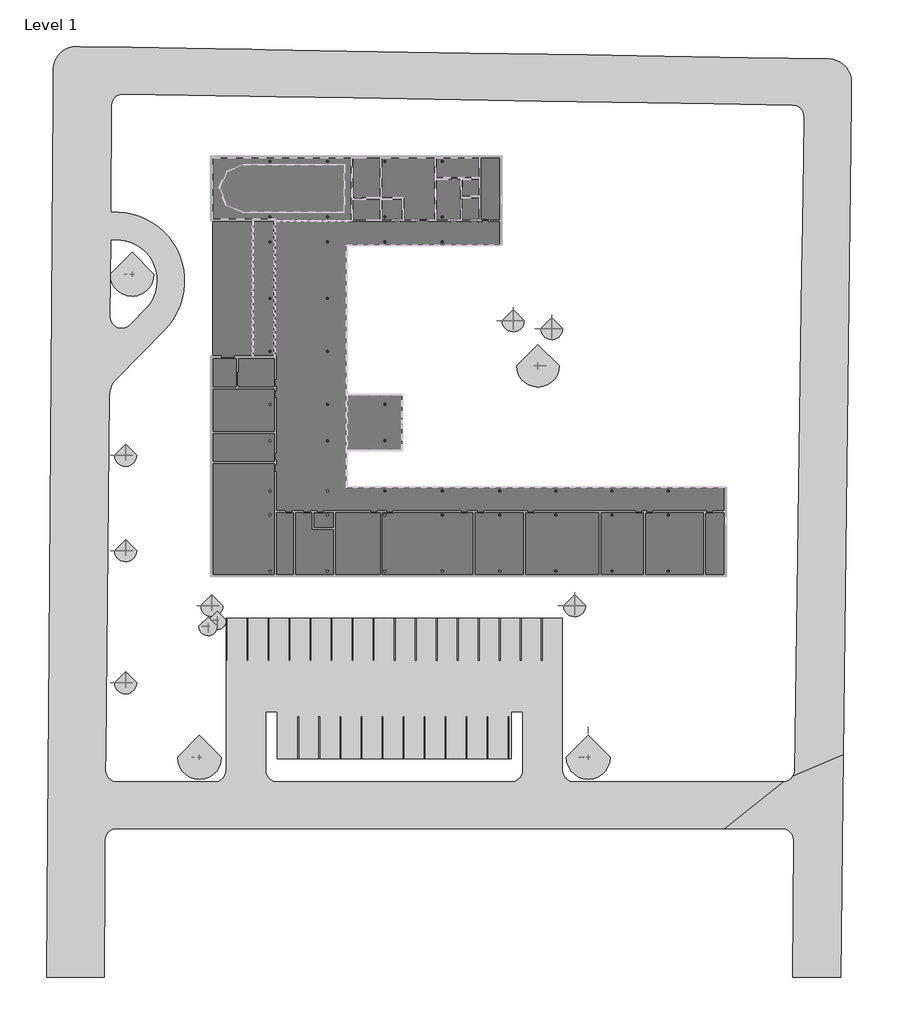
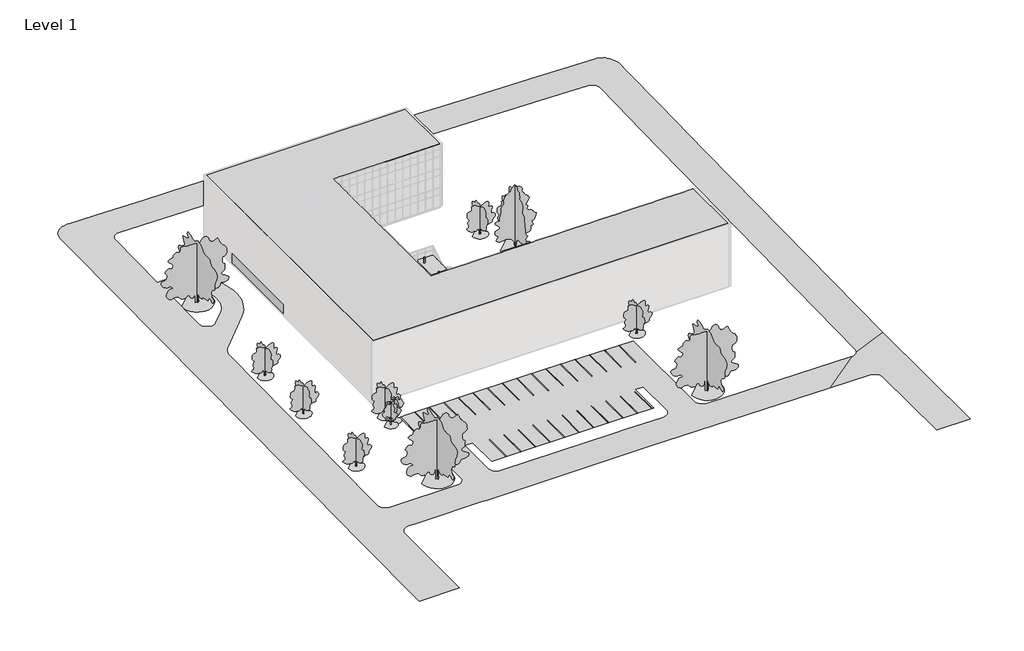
# One storey, part 18 of 18: 34 columns, 30 proxies, 13 geographic elements.
"""IFC4 building model written with IfcOpenShell, lengths in millimetres."""

from ifc_helpers import new_model, si_unit, point, frame_2d, origin, origin_with_axes, place, context, project, spatial, polyline, circle_curve, trimmed, segment, composite_curve, outline, extrude, triangles, transform, mapped, element, save
from components import m_parking_space_5480_x_2740mm_90_deg_a793e569, m_concrete_round_column_300mm_df790aaa, m_rpc_tree_deciduous_american_beech_6_0_meters_be49fed4, m_rpc_tree_deciduous_japanese_cherry_4_5_meters_7aaeb41d, m_rpc_tree_deciduous_lombardy_poplar_12_2_meters_1b309f58, m_rpc_tree_deciduous_scarlet_oak_12_5_meters_13b38d7d

model = new_model("IFC4")

# Units and contexts
model_context = context("Model", 3, world=origin())
ifc_project = project(units=[si_unit("LENGTHUNIT", "METRE", prefix="MILLI")], contexts=[model_context])

# Site, building, storey
site = spatial("IfcSite", under=ifc_project)
building = spatial("IfcBuilding", under=site)
storey = spatial("IfcBuildingStorey", under=building, Name="Level 1", Elevation=0.0)

# Proxies
placement = place(None, origin())
element("IfcBuildingElementProxy", 1, Name="Building Element Proxy", at=placement, inside=storey, context=model_context, shape_type="Tessellation", body=[
    triangles([(70309.7548828, 43704.7137085, -503.1527547), (59746.7205688, 43879.5355957, -409.5406998), (45204.5570435, 44120.2092773, -278.9620967), (38757.531958, 44226.9097412, -221.9724431), (23364.4389771, 44481.6709351, -156.1477909), (7458.42556, 44744.915332, 0.0), (-3099.0088051, 44919.6442017, 0.0), (-4909.0805878, 44949.6005127, 0.0), (-9691.7927261, 45028.7538208, 0.0), (-13464.786264, 45091.2011719, 0.0), (-20574.5627563, 45208.8684082, 0.0), (-27271.6376953, 45319.7081543, 0.0), (-27739.5370422, 45327.4518677, 0.0), (-28264.1631592, 45290.0215942, 0.0), (-28774.1901672, 45161.5457153, 0.0), (-29253.9399536, 44945.9681763, 0.0), (-29688.6669067, 44649.9211304, 0.0), (-30065.011377, 44282.4970459, 0.0), (-30371.4019775, 43854.9975586, 0.0), (-30598.4230042, 43380.5567505, 0.0), (-30739.095813, 42873.755127, 0.0), (-30774.2820374, 42505.3404053, 0.0), (-30789.0997375, 42350.1824341, 0.0), (-30818.2607483, 38430.6216797, 0.0), (-31349.0702087, -32913.8142334, 0.0), (-31410.3827454, -41154.7298218, 0.0), (-31466.9560364, -48758.3494263, 0.0), (-31526.3942688, -56747.4710815, 0.0), (-31669.8878357, -76033.9217651, 0.0), (-24160.2671448, -76033.9217651, 0.0), (-24090.7853394, -62944.5904907, 0.0), (-24065.2287598, -58130.4099243, 0.0), (-24026.1078918, -57797.9371948, 0.0), (-23964.4744446, -57624.1291992, 0.0), (-23914.2263489, -57482.4262207, 0.0), (-23735.1558838, -57199.58302, 0.0), (-23497.8145569, -56963.4997559, 0.0), (-23214.0249023, -56785.9338501, 0.0), (-22897.9232666, -56675.7266235, 0.0), (-22565.2505493, -56638.3707642, 0.0), (-21189.1601257, -56638.3707642, 0.0), (-18714.6158203, -56638.3707642, 0.0), (-9198.8908356, -56638.3707642, 0.0), (-8594.8358459, -56638.3707642, 0.0), (-7828.2291504, -56638.3707642, 0.0), (21010.0826843, -56638.3707642, 0.0), (22698.8121643, -56638.3707642, 0.0), (56711.1151611, -56638.3707642, -334.7282604), (64236.9255615, -56638.3707642, -334.7282604), (64572.5050781, -56676.3916992, -334.0721231), (64891.0763306, -56788.5243896, -332.1369578), (65176.4821655, -56969.0808105, -329.020869), (65414.2630005, -57208.917334, -324.8818048), (65592.3591064, -57495.8672607, -319.9295998), (65701.7431274, -57815.3872925, -314.4152925), (65736.8712158, -58151.2830688, -308.6184443), (65582.9224731, -76033.9217651, 0.0), (71858.6882446, -76033.9217651, 0.0), (72207.6111328, -46972.9328247, -501.5343578), (72914.4470581, 11897.6051788, -595.5837407), (72981.5592407, 17486.9884277, -555.8220689), (73096.2220093, 27037.1194519, -545.4053719), (73231.3532959, 38291.881311, -535.7858282), (73259.8957397, 40669.1083008, -533.0508934), (73220.8237061, 41189.0672607, -532.0520082), (73092.3059692, 41694.4085083, -530.2807137), (72878.2306641, 42169.863208, -527.790495), (72585.0625122, 42601.0694458, -524.6566383), (72221.661438, 42975.0001099, -520.9737236), (71799.0035156, 43280.3582153, -516.8530812), (71329.8554077, 43507.9210693, -512.4191949), (70828.3883423, 43650.810022, -507.805959), (65844.943689, -49064.5493408, -435.8225258), (65789.1005859, -49448.423584, -434.7050795), (65636.6912842, -49805.1366943, -432.6774053), (65397.8965576, -50110.8436157, -429.875069), (65088.6968262, -50345.0897827, -426.4855594), (64729.7652466, -50492.2110352, -422.7355339), (64345.1050049, -50542.3707642, -418.8757768), (37077.7972778, -50542.3707642, -150.5276125), (36744.0176514, -50504.7637573, -147.2983764), (36426.9718872, -50393.8263428, -144.3423523), (36142.5636658, -50215.1163208, -141.8077414), (35905.0502563, -49977.6052368, -139.8216707), (35726.3448853, -49693.1946899, -138.4837074), (35615.4051453, -49376.1535767, -137.8609529), (35577.7981384, -49042.3692993, -137.9846372), (35577.7981384, -29206.3707642, -167.3300298), (18575.1115448, -29206.3707642, 0.0), (14497.9359924, -29206.3707642, 0.0), (-7039.9656372, -29206.3707642, 0.0), (-8262.2014984, -29206.3707642, 0.0), (-8262.2014984, -49042.3692993, 0.0), (-8299.809668, -49376.1535767, 0.0), (-8410.7482452, -49693.1946899, 0.0), (-8589.4541977, -49977.6052368, 0.0), (-8665.8786026, -50054.028479, 0.0), (-8826.9670258, -50215.1163208, 0.0), (-9111.3758286, -50393.8263428, 0.0), (-9428.4198486, -50504.7637573, 0.0), (-9455.9652603, -50507.8658936, 0.0), (-9762.2018005, -50542.3707642, 0.0), (-21961.0269653, -50542.3707642, 0.0), (-22489.1714722, -50542.3707642, 0.0), (-22825.1137573, -50504.2661133, 0.0), (-23143.9896423, -50391.896228, 0.0), (-23429.5977905, -50210.9584351, 0.0), (-23667.4274597, -49970.6568237, 0.0), (-23845.3979919, -49683.1953003, 0.0), (-23954.4657532, -49363.1729736, 0.0), (-23989.0915466, -49026.8539673, 0.0), (-23965.8278503, -46777.8191528, 0.0), (-23482.8736084, -89.4265001, 0.0), (-23435.7322998, 363.1888415, 0.0), (-23321.7694885, 803.7518847, 0.0), (-23143.5268799, 1222.4547432, 0.0), (-22904.9670227, 1609.9761475, 0.0), (-22611.4058716, 1957.6892258, 0.0), (-16262.7991974, 8428.9988754, 0.0), (-15636.7711304, 9137.9788559, 0.0), (-15088.4732025, 9908.6498383, 0.0), (-14623.9422546, 10732.5286194, 0.0), (-14248.2919281, 11600.5442413, 0.0), (-13965.658017, 12503.1414734, 0.0), (-13779.1507965, 13430.3848755, 0.0), (-13690.8247925, 14372.0646057, 0.0), (-13701.6508759, 15317.8173431, 0.0), (-13811.5116119, 16257.2297699, 0.0), (-14019.1954468, 17179.959494, 0.0), (-14322.4187988, 18075.8513214, 0.0), (-14717.8411743, 18935.0395752, 0.0), (-15201.1093506, 19748.0690186, 0.0), (-15766.9062103, 20505.9855469, 0.0), (-16409.0007385, 21200.4478088, 0.0), (-17120.3235992, 21823.812085, 0.0), (-17893.0473633, 22369.2160034, 0.0), (-18718.662085, 22830.6506287, 0.0), (-19588.0811096, 23203.0418518, 0.0), (-20491.7329285, 23482.2875977, 0.0), (-21419.6693115, 23665.3136353, 0.0), (-22361.6746033, 23750.1084595, 0.0), (-23307.3796692, 23735.7325928, 0.0), (-23203.9185425, 37641.6768127, 0.0), (-23163.3768311, 37977.0679688, 0.0), (-23048.8094055, 38294.8811279, 0.0), (-22866.0228882, 38578.9940186, 0.0), (-22624.2911316, 38814.9958923, 0.0), (-22335.8738525, 38990.915387, 0.0), (-22015.4050415, 39097.8274658, 0.0), (-21679.1371948, 39130.3092041, 0.0), (-13208.9460663, 38990.1293884, 0.0), (-9625.997905, 38930.8306824, 0.0), (-5084.1908295, 38855.6655029, 0.0), (-1645.9585442, 38798.7619995, 0.0), (8377.2142456, 38632.8791016, 0.0), (32875.1398499, 38227.4364075, -240.4937689), (46729.6360474, 37998.1434265, -299.7389899), (55435.3325684, 37854.0638489, -376.6945579), (65630.1847046, 37685.3392639, -468.2372987), (65962.9318359, 37642.302356, -471.261242), (66277.7870361, 37526.3815247, -474.1950019), (66559.0024292, 37343.376416, -476.8917123), (66792.4998047, 37102.4422852, -479.216534), (66966.6054565, 36815.6318848, -481.0531225), (67072.6082886, 36497.2978271, -482.3095865), (67105.1969971, 36163.3670471, -482.9230665), (67025.2297852, 30755.4808594, -487.4104743), (66899.3025879, 22239.1774292, -496.4906977), (66805.7827148, 15914.661145, -541.4088498), (-1581.9995121, -47494.3707642, 0.0), (18839.3663452, -47494.3707642, 0.0), (21324.2449036, -47494.3707642, 0.0), (28897.5965881, -47494.3707642, -74.5322966), (28897.5965881, -41398.3707642, -83.5507232), (30421.5965881, -41398.3707642, -98.5489992), (30421.5965881, -49042.3692993, -87.2404598), (30383.9895813, -49376.1535767, -86.3765409), (30273.0498413, -49693.1946899, -84.8157168), (30094.3444702, -49977.6052368, -82.6362441), (29856.8310608, -50215.1163208, -79.9474184), (29572.4228394, -50393.8263428, -76.8840607), (29255.3770752, -50504.7637573, -73.5997817), (28921.5974487, -50542.3707642, -70.2592743), (21782.4332153, -50542.3707642, 0.0), (19562.9384583, -50542.3707642, 0.0), (-1605.9993553, -50542.3707642, 0.0), (-1939.7807259, -50504.7637573, 0.0), (-2256.8250366, -50393.8263428, 0.0), (-2541.2341301, -50215.1163208, 0.0), (-2778.7466675, -49977.6052368, 0.0), (-2957.4526199, -49693.1946899, 0.0), (-3068.3911972, -49376.1535767, 0.0), (-3105.9993668, -49042.3692993, 0.0), (-3105.9993668, -41398.3707642, 0.0), (-1581.9995121, -41398.3707642, 0.0), (-23329.5411072, 20062.4428528, 0.0), (-22621.2355042, 20122.8182373, 0.0), (-21911.2137268, 20088.0784973, 0.0), (-21212.1866272, 19958.8398743, 0.0), (-20536.6766968, 19737.4208313, 0.0), (-19896.7808716, 19427.7839172, 0.0), (-19303.9589172, 19035.4776306, 0.0), (-18768.829953, 18567.527124, 0.0), (-18300.9771149, 18032.3132813, 0.0), (-17908.7801239, 17439.420401, 0.0), (-17599.2606445, 16799.4687653, 0.0), (-17377.9648499, 16123.9181396, 0.0), (-17248.854126, 15424.8677856, 0.0), (-17214.2422852, 14714.8378693, 0.0), (-17274.7478943, 14006.5438934, 0.0), (-17429.2872986, 13312.6722931, 0.0), (-17675.0943878, 12645.649054, 0.0), (-18007.7659424, 12017.4211212, 0.0), (-18421.3430237, 11439.2389709, 0.0), (-20791.7983337, 9022.9684341, 0.0), (-21073.2044128, 8797.119429, 0.0), (-21399.8193604, 8643.7590225, 0.0), (-21753.3349915, 8571.483783, 0.0), (-22113.9339111, 8584.3452072, 0.0), (-22461.4010742, 8681.6229904, 0.0), (-22776.2609253, 8857.8639771, 0.0), (-23040.8610535, 9103.1879562, 0.0), (-23240.3698059, 9403.8428604, 0.0), (-23363.6018188, 9742.9750671, 0.0), (-23403.6505371, 10101.5741089, 0.0)], [[29, 30, 31], [29, 31, 28], [28, 32, 33], [32, 28, 31], [33, 34, 28], [28, 34, 35], [36, 37, 108], [36, 108, 28], [108, 37, 107], [38, 106, 107], [106, 38, 39], [37, 38, 107], [36, 28, 35], [28, 108, 27], [110, 111, 27], [109, 110, 27], [26, 27, 112], [25, 112, 113], [112, 25, 26], [27, 111, 112], [109, 27, 108], [114, 115, 224], [113, 114, 225], [225, 114, 224], [223, 116, 117], [223, 224, 115], [116, 223, 115], [25, 113, 24], [24, 113, 225], [105, 39, 40], [104, 40, 103], [105, 40, 104], [117, 118, 222], [118, 219, 220], [221, 118, 220], [223, 117, 222], [103, 41, 42], [41, 103, 40], [219, 118, 218], [216, 118, 119], [217, 218, 118], [118, 216, 217], [216, 119, 215], [212, 213, 122], [214, 121, 213], [119, 214, 215], [221, 222, 118], [121, 122, 213], [122, 123, 212], [211, 123, 124], [211, 212, 123], [211, 124, 210], [210, 124, 125], [121, 214, 120], [120, 214, 119], [105, 106, 39], [142, 143, 24], [196, 142, 24], [24, 144, 145], [144, 24, 143], [24, 145, 23], [146, 23, 145], [142, 196, 197], [196, 24, 225], [140, 198, 139], [197, 198, 141], [141, 198, 140], [12, 146, 147], [141, 142, 197], [12, 147, 148], [22, 20, 21], [16, 17, 22], [20, 22, 19], [18, 19, 22], [17, 18, 22], [22, 23, 13], [23, 12, 13], [23, 146, 12], [149, 11, 148], [16, 22, 15], [22, 14, 15], [13, 14, 22], [149, 150, 11], [12, 148, 11], [139, 198, 199], [207, 208, 128], [133, 203, 204], [205, 206, 131], [132, 204, 205], [207, 129, 206], [209, 126, 127], [126, 209, 210], [127, 128, 208], [206, 130, 131], [130, 206, 129], [129, 207, 128], [127, 208, 209], [210, 125, 126], [131, 132, 205], [137, 201, 136], [200, 201, 137], [11, 150, 151], [139, 199, 138], [200, 137, 138], [201, 202, 136], [199, 200, 138], [203, 134, 202], [134, 135, 202], [136, 202, 135], [10, 151, 9], [10, 11, 151], [203, 133, 134], [204, 132, 133], [103, 42, 102], [100, 43, 44], [99, 100, 44], [102, 43, 101], [188, 45, 187], [100, 101, 43], [44, 45, 99], [45, 186, 187], [43, 102, 42], [185, 186, 46], [46, 186, 45], [184, 46, 47], [185, 46, 184], [182, 183, 47], [47, 183, 184], [182, 82, 181], [99, 45, 98], [98, 45, 97], [95, 96, 190], [93, 94, 192], [95, 191, 94], [97, 190, 96], [45, 189, 190], [45, 188, 189], [191, 192, 94], [191, 95, 190], [193, 93, 192], [180, 181, 83], [190, 97, 45], [81, 182, 47], [79, 50, 78], [49, 50, 79], [80, 47, 48], [48, 79, 80], [79, 48, 49], [81, 47, 80], [78, 50, 51], [57, 58, 56], [55, 59, 54], [77, 51, 52], [59, 75, 53], [76, 52, 53], [54, 59, 53], [182, 81, 82], [55, 56, 59], [180, 84, 179], [180, 83, 84], [179, 84, 85], [177, 178, 86], [85, 86, 178], [178, 179, 85], [87, 177, 86], [77, 78, 51], [75, 76, 53], [59, 73, 74], [74, 75, 59], [77, 52, 76], [82, 83, 181], [56, 58, 59], [170, 171, 195], [91, 92, 194], [194, 195, 91], [93, 194, 92], [195, 90, 91], [90, 195, 171], [194, 93, 193], [175, 176, 87], [172, 174, 89], [172, 173, 174], [175, 88, 174], [88, 175, 87], [172, 89, 171], [177, 87, 176], [89, 174, 88], [8, 152, 153], [7, 153, 154], [8, 9, 152], [6, 7, 154], [8, 153, 7], [154, 155, 6], [9, 151, 152], [89, 90, 171], [155, 5, 6], [155, 156, 5], [5, 156, 4], [4, 157, 3], [4, 156, 157], [168, 169, 61], [160, 161, 1], [162, 163, 64], [161, 162, 1], [163, 164, 63], [62, 168, 61], [61, 169, 60], [165, 166, 63], [167, 63, 166], [168, 62, 167], [164, 165, 63], [63, 167, 62], [3, 158, 2], [2, 158, 159], [2, 159, 1], [66, 71, 72], [72, 1, 65], [159, 160, 1], [158, 3, 157], [66, 72, 65], [64, 65, 1], [66, 67, 71], [69, 70, 68], [67, 68, 70], [71, 67, 70], [162, 64, 1], [163, 63, 64], [60, 169, 73], [59, 60, 73]], closed=False),
])
m_parking_space_5480_x_2740mm_90_deg_shape = m_parking_space_5480_x_2740mm_90_deg_a793e569(model_context)
element("IfcBuildingElementProxy", 2, Name="M_Parking Space : 5480 x 2740mm - 90 deg", ObjectType="M_Parking Space : 5480 x 2740mm - 90 deg", at=placement, inside=storey, context=model_context, shape_type="MappedRepresentation", body=[
    mapped(m_parking_space_5480_x_2740mm_90_deg_shape, transform((-8211.3704002, -29206.3707642, 0.7803686), x_axis=(1.0, 0.0, 0.0), y_axis=(0.0, 1.0, 0.0), z_axis=(0.0, 0.0, 1.0))),
])
element("IfcBuildingElementProxy", 3, Name="M_Parking Space : 5480 x 2740mm - 90 deg", ObjectType="M_Parking Space : 5480 x 2740mm - 90 deg", at=placement, inside=storey, context=model_context, shape_type="MappedRepresentation", body=[
    mapped(m_parking_space_5480_x_2740mm_90_deg_shape, transform((-5471.4012928, -29206.3707642, 0.7803686), x_axis=(1.0, 0.0, 0.0), y_axis=(0.0, 1.0, 0.0), z_axis=(0.0, 0.0, 1.0))),
])
element("IfcBuildingElementProxy", 4, Name="M_Parking Space : 5480 x 2740mm - 90 deg", ObjectType="M_Parking Space : 5480 x 2740mm - 90 deg", at=placement, inside=storey, context=model_context, shape_type="MappedRepresentation", body=[
    mapped(m_parking_space_5480_x_2740mm_90_deg_shape, transform((-2731.4321855, -29206.3707642, 0.7803686), x_axis=(1.0, 0.0, 0.0), y_axis=(0.0, 1.0, 0.0), z_axis=(0.0, 0.0, 1.0))),
])
element("IfcBuildingElementProxy", 5, Name="M_Parking Space : 5480 x 2740mm - 90 deg", ObjectType="M_Parking Space : 5480 x 2740mm - 90 deg", at=placement, inside=storey, context=model_context, shape_type="MappedRepresentation", body=[
    mapped(m_parking_space_5480_x_2740mm_90_deg_shape, transform((8.5369219, -29206.3707642, 0.7803686), x_axis=(1.0, 0.0, 0.0), y_axis=(0.0, 1.0, 0.0), z_axis=(0.0, 0.0, 1.0))),
])
element("IfcBuildingElementProxy", 6, Name="M_Parking Space : 5480 x 2740mm - 90 deg", ObjectType="M_Parking Space : 5480 x 2740mm - 90 deg", at=placement, inside=storey, context=model_context, shape_type="MappedRepresentation", body=[
    mapped(m_parking_space_5480_x_2740mm_90_deg_shape, transform((2748.5060292, -29206.3707642, 0.7803686), x_axis=(1.0, 0.0, 0.0), y_axis=(0.0, 1.0, 0.0), z_axis=(0.0, 0.0, 1.0))),
])
element("IfcBuildingElementProxy", 7, Name="M_Parking Space : 5480 x 2740mm - 90 deg", ObjectType="M_Parking Space : 5480 x 2740mm - 90 deg", at=placement, inside=storey, context=model_context, shape_type="MappedRepresentation", body=[
    mapped(m_parking_space_5480_x_2740mm_90_deg_shape, transform((5488.4751366, -29206.3707642, 0.7803686), x_axis=(1.0, 0.0, 0.0), y_axis=(0.0, 1.0, 0.0), z_axis=(0.0, 0.0, 1.0))),
])
element("IfcBuildingElementProxy", 8, Name="M_Parking Space : 5480 x 2740mm - 90 deg", ObjectType="M_Parking Space : 5480 x 2740mm - 90 deg", at=placement, inside=storey, context=model_context, shape_type="MappedRepresentation", body=[
    mapped(m_parking_space_5480_x_2740mm_90_deg_shape, transform((8228.4442439, -29206.3707642, 0.7803686), x_axis=(1.0, 0.0, 0.0), y_axis=(0.0, 1.0, 0.0), z_axis=(0.0, 0.0, 1.0))),
])
element("IfcBuildingElementProxy", 9, Name="M_Parking Space : 5480 x 2740mm - 90 deg", ObjectType="M_Parking Space : 5480 x 2740mm - 90 deg", at=placement, inside=storey, context=model_context, shape_type="MappedRepresentation", body=[
    mapped(m_parking_space_5480_x_2740mm_90_deg_shape, transform((10968.4133512, -29206.3707642, 0.7803686), x_axis=(1.0, 0.0, 0.0), y_axis=(0.0, 1.0, 0.0), z_axis=(0.0, 0.0, 1.0))),
])
element("IfcBuildingElementProxy", 10, Name="M_Parking Space : 5480 x 2740mm - 90 deg", ObjectType="M_Parking Space : 5480 x 2740mm - 90 deg", at=placement, inside=storey, context=model_context, shape_type="MappedRepresentation", body=[
    mapped(m_parking_space_5480_x_2740mm_90_deg_shape, transform((13708.3824586, -29206.3707642, 0.7803686), x_axis=(1.0, 0.0, 0.0), y_axis=(0.0, 1.0, 0.0), z_axis=(0.0, 0.0, 1.0))),
])
element("IfcBuildingElementProxy", 11, Name="M_Parking Space : 5480 x 2740mm - 90 deg", ObjectType="M_Parking Space : 5480 x 2740mm - 90 deg", at=placement, inside=storey, context=model_context, shape_type="MappedRepresentation", body=[
    mapped(m_parking_space_5480_x_2740mm_90_deg_shape, transform((16448.3515659, -29206.3707642, 0.7254434), x_axis=(1.0, 0.0, 0.0), y_axis=(0.0, 1.0, 0.0), z_axis=(0.0, 0.0, 1.0))),
])
element("IfcBuildingElementProxy", 12, Name="M_Parking Space : 5480 x 2740mm - 90 deg", ObjectType="M_Parking Space : 5480 x 2740mm - 90 deg", at=placement, inside=storey, context=model_context, shape_type="MappedRepresentation", body=[
    mapped(m_parking_space_5480_x_2740mm_90_deg_shape, transform((19188.3206733, -29206.3707642, -5.2310848), x_axis=(0.9999560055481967, 0.0, -0.009380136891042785), y_axis=(-1.1675017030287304e-05, 0.9999992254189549, -0.0012445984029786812), z_axis=(0.009380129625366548, 0.0012446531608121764, 0.9999552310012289))),
])
element("IfcBuildingElementProxy", 13, Name="M_Parking Space : 5480 x 2740mm - 90 deg", ObjectType="M_Parking Space : 5480 x 2740mm - 90 deg", at=placement, inside=storey, context=model_context, shape_type="MappedRepresentation", body=[
    mapped(m_parking_space_5480_x_2740mm_90_deg_shape, transform((21928.2897806, -29206.3707642, -32.2196013), x_axis=(0.9999515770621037, 0.0, -0.0098409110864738), y_axis=(-1.4557933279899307e-05, 0.9999989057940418, -0.0014792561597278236), z_axis=(0.009840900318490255, 0.0014793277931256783, 0.99995048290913))),
])
element("IfcBuildingElementProxy", 14, Name="M_Parking Space : 5480 x 2740mm - 90 deg", ObjectType="M_Parking Space : 5480 x 2740mm - 90 deg", at=placement, inside=storey, context=model_context, shape_type="MappedRepresentation", body=[
    mapped(m_parking_space_5480_x_2740mm_90_deg_shape, transform((24668.258888, -29206.3707642, -59.1846994), x_axis=(0.9999515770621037, 0.0, -0.009840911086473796), y_axis=(-1.4557933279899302e-05, 0.9999989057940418, -0.0014792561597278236), z_axis=(0.009840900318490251, 0.0014793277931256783, 0.99995048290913))),
])
element("IfcBuildingElementProxy", 15, Name="M_Parking Space : 5480 x 2740mm - 90 deg", ObjectType="M_Parking Space : 5480 x 2740mm - 90 deg", at=placement, inside=storey, context=model_context, shape_type="MappedRepresentation", body=[
    mapped(m_parking_space_5480_x_2740mm_90_deg_shape, transform((27408.2279953, -29206.3707642, -86.1497975), x_axis=(0.9999515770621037, 0.0, -0.0098409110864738), y_axis=(-1.4557933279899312e-05, 0.9999989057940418, -0.001479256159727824), z_axis=(0.009840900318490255, 0.0014793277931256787, 0.99995048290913))),
])
element("IfcBuildingElementProxy", 16, Name="M_Parking Space : 5480 x 2740mm - 90 deg", ObjectType="M_Parking Space : 5480 x 2740mm - 90 deg", at=placement, inside=storey, context=model_context, shape_type="MappedRepresentation", body=[
    mapped(m_parking_space_5480_x_2740mm_90_deg_shape, transform((30148.1971027, -29206.3707642, -113.1148956), x_axis=(0.9999515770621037, 0.0, -0.009840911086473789), y_axis=(-1.4557933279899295e-05, 0.9999989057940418, -0.001479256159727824), z_axis=(0.009840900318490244, 0.0014793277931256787, 0.99995048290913))),
])
element("IfcBuildingElementProxy", 17, Name="M_Parking Space : 5480 x 2740mm - 90 deg", ObjectType="M_Parking Space : 5480 x 2740mm - 90 deg", at=placement, inside=storey, context=model_context, shape_type="MappedRepresentation", body=[
    mapped(m_parking_space_5480_x_2740mm_90_deg_shape, transform((32888.16621, -29206.3707642, -140.0799937), x_axis=(0.9999515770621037, 0.0, -0.009840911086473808), y_axis=(-1.4557933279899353e-05, 0.9999989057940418, -0.0014792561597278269), z_axis=(0.009840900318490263, 0.0014793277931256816, 0.99995048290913))),
])
element("IfcBuildingElementProxy", 18, Name="M_Parking Space : 5480 x 2740mm - 90 deg", ObjectType="M_Parking Space : 5480 x 2740mm - 90 deg", at=placement, inside=storey, context=model_context, shape_type="MappedRepresentation", body=[
    mapped(m_parking_space_5480_x_2740mm_90_deg_shape, transform((28558.0005584, -47494.3704098, -70.4098691), x_axis=(-0.9999515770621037, 0.0, 0.009840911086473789), y_axis=(1.4557933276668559e-05, -0.9999989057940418, 0.0014792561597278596), z_axis=(0.00984090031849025, 0.0014793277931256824, 0.99995048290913))),
])
element("IfcBuildingElementProxy", 19, Name="M_Parking Space : 5480 x 2740mm - 90 deg", ObjectType="M_Parking Space : 5480 x 2740mm - 90 deg", at=placement, inside=storey, context=model_context, shape_type="MappedRepresentation", body=[
    mapped(m_parking_space_5480_x_2740mm_90_deg_shape, transform((25818.031746, -47494.3704098, -43.444774), x_axis=(-0.9999515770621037, 0.0, 0.009840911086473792), y_axis=(1.455793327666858e-05, -0.9999989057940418, 0.0014792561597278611), z_axis=(0.009840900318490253, 0.001479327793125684, 0.99995048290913))),
])
element("IfcBuildingElementProxy", 20, Name="M_Parking Space : 5480 x 2740mm - 90 deg", ObjectType="M_Parking Space : 5480 x 2740mm - 90 deg", at=placement, inside=storey, context=model_context, shape_type="MappedRepresentation", body=[
    mapped(m_parking_space_5480_x_2740mm_90_deg_shape, transform((23078.0629336, -47494.3704098, -16.4796788), x_axis=(-0.9999515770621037, 0.0, 0.009840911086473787), y_axis=(1.4557933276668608e-05, -0.9999989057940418, 0.0014792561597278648), z_axis=(0.009840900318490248, 0.0014793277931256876, 0.99995048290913))),
])
element("IfcBuildingElementProxy", 21, Name="M_Parking Space : 5480 x 2740mm - 90 deg", ObjectType="M_Parking Space : 5480 x 2740mm - 90 deg", at=placement, inside=storey, context=model_context, shape_type="MappedRepresentation", body=[
    mapped(m_parking_space_5480_x_2740mm_90_deg_shape, transform((20338.0941212, -47494.3704098, 0.5399922), x_axis=(-0.9999888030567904, 0.0, 0.004732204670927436), y_axis=(3.5003760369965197e-06, -0.9999997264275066, 0.0007396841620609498), z_axis=(0.004732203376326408, 0.0007396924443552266, 0.9999885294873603))),
])
element("IfcBuildingElementProxy", 22, Name="M_Parking Space : 5480 x 2740mm - 90 deg", ObjectType="M_Parking Space : 5480 x 2740mm - 90 deg", at=placement, inside=storey, context=model_context, shape_type="MappedRepresentation", body=[
    mapped(m_parking_space_5480_x_2740mm_90_deg_shape, transform((17598.1253087, -47494.3704098, 0.7803686), x_axis=(-1.0, 0.0, 0.0), y_axis=(0.0, -1.0, 0.0), z_axis=(0.0, 0.0, 1.0))),
])
element("IfcBuildingElementProxy", 23, Name="M_Parking Space : 5480 x 2740mm - 90 deg", ObjectType="M_Parking Space : 5480 x 2740mm - 90 deg", at=placement, inside=storey, context=model_context, shape_type="MappedRepresentation", body=[
    mapped(m_parking_space_5480_x_2740mm_90_deg_shape, transform((14858.1564963, -47494.3704098, 0.7803686), x_axis=(-1.0, 0.0, 0.0), y_axis=(0.0, -1.0, 0.0), z_axis=(0.0, 0.0, 1.0))),
])
element("IfcBuildingElementProxy", 24, Name="M_Parking Space : 5480 x 2740mm - 90 deg", ObjectType="M_Parking Space : 5480 x 2740mm - 90 deg", at=placement, inside=storey, context=model_context, shape_type="MappedRepresentation", body=[
    mapped(m_parking_space_5480_x_2740mm_90_deg_shape, transform((12118.1876839, -47494.3704098, 0.7803686), x_axis=(-1.0, 0.0, 0.0), y_axis=(0.0, -1.0, 0.0), z_axis=(0.0, 0.0, 1.0))),
])
element("IfcBuildingElementProxy", 25, Name="M_Parking Space : 5480 x 2740mm - 90 deg", ObjectType="M_Parking Space : 5480 x 2740mm - 90 deg", at=placement, inside=storey, context=model_context, shape_type="MappedRepresentation", body=[
    mapped(m_parking_space_5480_x_2740mm_90_deg_shape, transform((9378.2188715, -47494.3704098, 0.7803686), x_axis=(-1.0, 0.0, 0.0), y_axis=(0.0, -1.0, 0.0), z_axis=(0.0, 0.0, 1.0))),
])
element("IfcBuildingElementProxy", 26, Name="M_Parking Space : 5480 x 2740mm - 90 deg", ObjectType="M_Parking Space : 5480 x 2740mm - 90 deg", at=placement, inside=storey, context=model_context, shape_type="MappedRepresentation", body=[
    mapped(m_parking_space_5480_x_2740mm_90_deg_shape, transform((6638.2500591, -47494.3704098, 0.7803686), x_axis=(-1.0, 0.0, 0.0), y_axis=(0.0, -1.0, 0.0), z_axis=(0.0, 0.0, 1.0))),
])
element("IfcBuildingElementProxy", 27, Name="M_Parking Space : 5480 x 2740mm - 90 deg", ObjectType="M_Parking Space : 5480 x 2740mm - 90 deg", at=placement, inside=storey, context=model_context, shape_type="MappedRepresentation", body=[
    mapped(m_parking_space_5480_x_2740mm_90_deg_shape, transform((3898.2812467, -47494.3704098, 0.7803686), x_axis=(-1.0, 0.0, 0.0), y_axis=(0.0, -1.0, 0.0), z_axis=(0.0, 0.0, 1.0))),
])
element("IfcBuildingElementProxy", 28, Name="M_Parking Space : 5480 x 2740mm - 90 deg", ObjectType="M_Parking Space : 5480 x 2740mm - 90 deg", at=placement, inside=storey, context=model_context, shape_type="MappedRepresentation", body=[
    mapped(m_parking_space_5480_x_2740mm_90_deg_shape, transform((1158.3124343, -47494.3704098, 0.7803686), x_axis=(-1.0, 0.0, 0.0), y_axis=(0.0, -1.0, 0.0), z_axis=(0.0, 0.0, 1.0))),
])
element("IfcBuildingElementProxy", 29, Name="Main Building : Main Building", ObjectType="Main Building : Main Building", at=placement, inside=storey, context=model_context, shape_type="SweptSolid", body=[
    extrude(outline(polyline([(27411.8999097, 30818.5799804), (27411.8999097, 19414.8392059), (7447.5010724, 19414.8392059), (7447.5010724, -12132.3615692), (56699.1173382, -12132.3615692), (56699.1173382, -23510.7006057), (-10026.8386635, -23510.7006057), (-10026.8386635, 30818.5799804), (27411.8999097, 30818.5799804)])), origin_with_axes(), (0.0, 0.0, 1.0), 12400.0),
])
element("IfcBuildingElementProxy", 30, Name="Pavillion : Pavillion", ObjectType="Pavillion : Pavillion", at=placement, inside=storey, context=model_context, shape_type="SweptSolid", body=[
    extrude(outline(polyline([(14709.0902051, -89.4607941), (14709.0902051, -7283.8611817), (7447.5010724, -7283.8611817), (7447.5010724, -89.4607941), (14709.0902051, -89.4607941)])), origin_with_axes(), (0.0, 0.0, 1.0), 6600.0),
])

# Columns
element("IfcColumn", 31, ObjectType="M_Concrete-Round-Column : 300mm", at=placement, inside=storey, context=model_context, shape_type="SweptSolid", body=[
    extrude(outline(composite_curve([segment(trimmed(circle_curve(frame_2d((12436.4044804, -1309.4607941)), 150.0), [point((12586.4044804, -1309.4607941))], [point((12286.4044804, -1309.4607941))], False, "CARTESIAN"), True, "CONTINUOUS"), segment(trimmed(circle_curve(frame_2d((12436.4044804, -1309.4607941)), 150.0), [point((12286.4044804, -1309.4607941))], [point((12586.4044804, -1309.4607941))], False, "CARTESIAN"), True, "CONTINUOUS")], self_intersect=False)), origin_with_axes(), (0.0, 0.0, 1.0), 7634.4266858),
])
element("IfcColumn", 32, ObjectType="M_Concrete-Round-Column : 300mm", at=placement, inside=storey, context=model_context, shape_type="SweptSolid", body=[
    extrude(outline(composite_curve([segment(trimmed(circle_curve(frame_2d((12436.4044804, -6063.8611817)), 150.0), [point((12586.4044804, -6063.8611817))], [point((12286.4044804, -6063.8611817))], False, "CARTESIAN"), True, "CONTINUOUS"), segment(trimmed(circle_curve(frame_2d((12436.4044804, -6063.8611817)), 150.0), [point((12286.4044804, -6063.8611817))], [point((12586.4044804, -6063.8611817))], False, "CARTESIAN"), True, "CONTINUOUS")], self_intersect=False)), origin_with_axes(), (0.0, 0.0, 1.0), 7634.4266858),
])
m_concrete_round_column_300mm_shape = m_concrete_round_column_300mm_df790aaa(model_context)
element("IfcColumn", 33, ObjectType="M_Concrete-Round-Column : 300mm", at=placement, inside=storey, context=model_context, shape_type="MappedRepresentation", body=[
    mapped(m_concrete_round_column_300mm_shape, transform((-2539.0909489, 23121.5799804, 0.0), x_axis=(-1.0, 0.0, 0.0), y_axis=(0.0, -1.0, 0.0), z_axis=(0.0, 0.0, 1.0))),
])
element("IfcColumn", 34, ObjectType="M_Concrete-Round-Column : 300mm", at=placement, inside=storey, context=model_context, shape_type="MappedRepresentation", body=[
    mapped(m_concrete_round_column_300mm_shape, transform((-2539.0909489, 12506.7392059, 0.0), x_axis=(-1.0, 0.0, 0.0), y_axis=(0.0, -1.0, 0.0), z_axis=(0.0, 0.0, 1.0))),
])
element("IfcColumn", 35, ObjectType="M_Concrete-Round-Column : 300mm", at=placement, inside=storey, context=model_context, shape_type="MappedRepresentation", body=[
    mapped(m_concrete_round_column_300mm_shape, transform((-2539.0909489, 5598.6392059, 0.0), x_axis=(-1.0, 0.0, 0.0), y_axis=(0.0, -1.0, 0.0), z_axis=(0.0, 0.0, 1.0))),
])
element("IfcColumn", 36, ObjectType="M_Concrete-Round-Column : 300mm", at=placement, inside=storey, context=model_context, shape_type="MappedRepresentation", body=[
    mapped(m_concrete_round_column_300mm_shape, transform((-2539.0909489, 30368.5799804, 0.0), x_axis=(-1.0, 0.0, 0.0), y_axis=(0.0, -1.0, 0.0), z_axis=(0.0, 0.0, 1.0))),
])
element("IfcColumn", 37, ObjectType="M_Concrete-Round-Column : 300mm", at=placement, inside=storey, context=model_context, shape_type="MappedRepresentation", body=[
    mapped(m_concrete_round_column_300mm_shape, transform((-2539.0909489, 19864.8392059, 0.0), x_axis=(-1.0, 0.0, 0.0), y_axis=(0.0, -1.0, 0.0), z_axis=(0.0, 0.0, 1.0))),
])
element("IfcColumn", 38, ObjectType="M_Concrete-Round-Column : 300mm", at=placement, inside=storey, context=model_context, shape_type="MappedRepresentation", body=[
    mapped(m_concrete_round_column_300mm_shape, transform((4948.6567657, 23121.5799804, 0.0), x_axis=(-1.0, 0.0, 0.0), y_axis=(0.0, -1.0, 0.0), z_axis=(0.0, 0.0, 1.0))),
])
element("IfcColumn", 39, ObjectType="M_Concrete-Round-Column : 300mm", at=placement, inside=storey, context=model_context, shape_type="MappedRepresentation", body=[
    mapped(m_concrete_round_column_300mm_shape, transform((4948.6567657, 12506.7392059, 0.0), x_axis=(-1.0, 0.0, 0.0), y_axis=(0.0, -1.0, 0.0), z_axis=(0.0, 0.0, 1.0))),
])
element("IfcColumn", 40, ObjectType="M_Concrete-Round-Column : 300mm", at=placement, inside=storey, context=model_context, shape_type="MappedRepresentation", body=[
    mapped(m_concrete_round_column_300mm_shape, transform((4948.6567657, 5598.6392059, 0.0), x_axis=(-1.0, 0.0, 0.0), y_axis=(0.0, -1.0, 0.0), z_axis=(0.0, 0.0, 1.0))),
])
element("IfcColumn", 41, ObjectType="M_Concrete-Round-Column : 300mm", at=placement, inside=storey, context=model_context, shape_type="MappedRepresentation", body=[
    mapped(m_concrete_round_column_300mm_shape, transform((4948.6567657, -1309.4607941, 0.0), x_axis=(-1.0, 0.0, 0.0), y_axis=(0.0, -1.0, 0.0), z_axis=(0.0, 0.0, 1.0))),
])
element("IfcColumn", 42, ObjectType="M_Concrete-Round-Column : 300mm", at=placement, inside=storey, context=model_context, shape_type="MappedRepresentation", body=[
    mapped(m_concrete_round_column_300mm_shape, transform((4948.6567657, -6063.8611817, 0.0), x_axis=(-1.0, 0.0, 0.0), y_axis=(0.0, -1.0, 0.0), z_axis=(0.0, 0.0, 1.0))),
])
element("IfcColumn", 43, ObjectType="M_Concrete-Round-Column : 300mm", at=placement, inside=storey, context=model_context, shape_type="MappedRepresentation", body=[
    mapped(m_concrete_round_column_300mm_shape, transform((4948.6567657, 30368.5799804, 0.0), x_axis=(-1.0, 0.0, 0.0), y_axis=(0.0, -1.0, 0.0), z_axis=(0.0, 0.0, 1.0))),
])
element("IfcColumn", 44, ObjectType="M_Concrete-Round-Column : 300mm", at=placement, inside=storey, context=model_context, shape_type="MappedRepresentation", body=[
    mapped(m_concrete_round_column_300mm_shape, transform((4948.6567657, 19864.8392059, 0.0), x_axis=(-1.0, 0.0, 0.0), y_axis=(0.0, -1.0, 0.0), z_axis=(0.0, 0.0, 1.0))),
])
element("IfcColumn", 45, ObjectType="M_Concrete-Round-Column : 300mm", at=placement, inside=storey, context=model_context, shape_type="MappedRepresentation", body=[
    mapped(m_concrete_round_column_300mm_shape, transform((12436.4044804, 23121.5799804, 0.0), x_axis=(-1.0, 0.0, 0.0), y_axis=(0.0, -1.0, 0.0), z_axis=(0.0, 0.0, 1.0))),
])
element("IfcColumn", 46, ObjectType="M_Concrete-Round-Column : 300mm", at=placement, inside=storey, context=model_context, shape_type="MappedRepresentation", body=[
    mapped(m_concrete_round_column_300mm_shape, transform((12436.4044804, 30368.5799804, 0.0), x_axis=(-1.0, 0.0, 0.0), y_axis=(0.0, -1.0, 0.0), z_axis=(0.0, 0.0, 1.0))),
])
element("IfcColumn", 47, ObjectType="M_Concrete-Round-Column : 300mm", at=placement, inside=storey, context=model_context, shape_type="MappedRepresentation", body=[
    mapped(m_concrete_round_column_300mm_shape, transform((12436.4044804, 19864.8392059, 0.0), x_axis=(-1.0, 0.0, 0.0), y_axis=(0.0, -1.0, 0.0), z_axis=(0.0, 0.0, 1.0))),
])
element("IfcColumn", 48, ObjectType="M_Concrete-Round-Column : 300mm", at=placement, inside=storey, context=model_context, shape_type="MappedRepresentation", body=[
    mapped(m_concrete_round_column_300mm_shape, transform((12436.4044804, -12582.3615692, 0.0), x_axis=(-1.0, 0.0, 0.0), y_axis=(0.0, -1.0, 0.0), z_axis=(0.0, 0.0, 1.0))),
])
element("IfcColumn", 49, ObjectType="M_Concrete-Round-Column : 300mm", at=placement, inside=storey, context=model_context, shape_type="MappedRepresentation", body=[
    mapped(m_concrete_round_column_300mm_shape, transform((19924.152195, 23121.5799804, 0.0), x_axis=(-1.0, 0.0, 0.0), y_axis=(0.0, -1.0, 0.0), z_axis=(0.0, 0.0, 1.0))),
])
element("IfcColumn", 50, ObjectType="M_Concrete-Round-Column : 300mm", at=placement, inside=storey, context=model_context, shape_type="MappedRepresentation", body=[
    mapped(m_concrete_round_column_300mm_shape, transform((19924.152195, -15754.7006057, 0.0), x_axis=(-1.0, 0.0, 0.0), y_axis=(0.0, -1.0, 0.0), z_axis=(0.0, 0.0, 1.0))),
])
element("IfcColumn", 51, ObjectType="M_Concrete-Round-Column : 300mm", at=placement, inside=storey, context=model_context, shape_type="MappedRepresentation", body=[
    mapped(m_concrete_round_column_300mm_shape, transform((19924.152195, 30368.5799804, 0.0), x_axis=(-1.0, 0.0, 0.0), y_axis=(0.0, -1.0, 0.0), z_axis=(0.0, 0.0, 1.0))),
])
element("IfcColumn", 52, ObjectType="M_Concrete-Round-Column : 300mm", at=placement, inside=storey, context=model_context, shape_type="MappedRepresentation", body=[
    mapped(m_concrete_round_column_300mm_shape, transform((19924.152195, 19864.8392059, 0.0), x_axis=(-1.0, 0.0, 0.0), y_axis=(0.0, -1.0, 0.0), z_axis=(0.0, 0.0, 1.0))),
])
element("IfcColumn", 53, ObjectType="M_Concrete-Round-Column : 300mm", at=placement, inside=storey, context=model_context, shape_type="MappedRepresentation", body=[
    mapped(m_concrete_round_column_300mm_shape, transform((19924.152195, -12582.3615692, 0.0), x_axis=(-1.0, 0.0, 0.0), y_axis=(0.0, -1.0, 0.0), z_axis=(0.0, 0.0, 1.0))),
])
element("IfcColumn", 54, ObjectType="M_Concrete-Round-Column : 300mm", at=placement, inside=storey, context=model_context, shape_type="MappedRepresentation", body=[
    mapped(m_concrete_round_column_300mm_shape, transform((27411.8999097, -15754.7006057, 0.0), x_axis=(-1.0, 0.0, 0.0), y_axis=(0.0, -1.0, 0.0), z_axis=(0.0, 0.0, 1.0))),
])
element("IfcColumn", 55, ObjectType="M_Concrete-Round-Column : 300mm", at=placement, inside=storey, context=model_context, shape_type="MappedRepresentation", body=[
    mapped(m_concrete_round_column_300mm_shape, transform((27411.8999097, -12582.3615692, 0.0), x_axis=(-1.0, 0.0, 0.0), y_axis=(0.0, -1.0, 0.0), z_axis=(0.0, 0.0, 1.0))),
])
element("IfcColumn", 56, ObjectType="M_Concrete-Round-Column : 300mm", at=placement, inside=storey, context=model_context, shape_type="MappedRepresentation", body=[
    mapped(m_concrete_round_column_300mm_shape, transform((34733.7042668, -15754.7006057, 0.0), x_axis=(-1.0, 0.0, 0.0), y_axis=(0.0, -1.0, 0.0), z_axis=(0.0, 0.0, 1.0))),
])
element("IfcColumn", 57, ObjectType="M_Concrete-Round-Column : 300mm", at=placement, inside=storey, context=model_context, shape_type="MappedRepresentation", body=[
    mapped(m_concrete_round_column_300mm_shape, transform((34733.7042668, -12582.3615692, 0.0), x_axis=(-1.0, 0.0, 0.0), y_axis=(0.0, -1.0, 0.0), z_axis=(0.0, 0.0, 1.0))),
])
element("IfcColumn", 58, ObjectType="M_Concrete-Round-Column : 300mm", at=placement, inside=storey, context=model_context, shape_type="MappedRepresentation", body=[
    mapped(m_concrete_round_column_300mm_shape, transform((34733.7042668, -23060.7006057, 0.0), x_axis=(-1.0, 0.0, 0.0), y_axis=(0.0, -1.0, 0.0), z_axis=(0.0, 0.0, 1.0))),
])
element("IfcColumn", 59, ObjectType="M_Concrete-Round-Column : 300mm", at=placement, inside=storey, context=model_context, shape_type="MappedRepresentation", body=[
    mapped(m_concrete_round_column_300mm_shape, transform((42055.5086239, -15754.7006057, 0.0), x_axis=(-1.0, 0.0, 0.0), y_axis=(0.0, -1.0, 0.0), z_axis=(0.0, 0.0, 1.0))),
])
element("IfcColumn", 60, ObjectType="M_Concrete-Round-Column : 300mm", at=placement, inside=storey, context=model_context, shape_type="MappedRepresentation", body=[
    mapped(m_concrete_round_column_300mm_shape, transform((42055.5086239, -12582.3615692, 0.0), x_axis=(-1.0, 0.0, 0.0), y_axis=(0.0, -1.0, 0.0), z_axis=(0.0, 0.0, 1.0))),
])
element("IfcColumn", 61, ObjectType="M_Concrete-Round-Column : 300mm", at=placement, inside=storey, context=model_context, shape_type="MappedRepresentation", body=[
    mapped(m_concrete_round_column_300mm_shape, transform((42055.5086239, -23060.7006057, 0.0), x_axis=(-1.0, 0.0, 0.0), y_axis=(0.0, -1.0, 0.0), z_axis=(0.0, 0.0, 1.0))),
])
element("IfcColumn", 62, ObjectType="M_Concrete-Round-Column : 300mm", at=placement, inside=storey, context=model_context, shape_type="MappedRepresentation", body=[
    mapped(m_concrete_round_column_300mm_shape, transform((49377.3129811, -15754.7006057, 0.0), x_axis=(-1.0, 0.0, 0.0), y_axis=(0.0, -1.0, 0.0), z_axis=(0.0, 0.0, 1.0))),
])
element("IfcColumn", 63, ObjectType="M_Concrete-Round-Column : 300mm", at=placement, inside=storey, context=model_context, shape_type="MappedRepresentation", body=[
    mapped(m_concrete_round_column_300mm_shape, transform((49377.3129811, -12582.3615692, 0.0), x_axis=(-1.0, 0.0, 0.0), y_axis=(0.0, -1.0, 0.0), z_axis=(0.0, 0.0, 1.0))),
])
element("IfcColumn", 64, ObjectType="M_Concrete-Round-Column : 300mm", at=placement, inside=storey, context=model_context, shape_type="MappedRepresentation", body=[
    mapped(m_concrete_round_column_300mm_shape, transform((49377.3129811, -23060.7006057, 0.0), x_axis=(-1.0, 0.0, 0.0), y_axis=(0.0, -1.0, 0.0), z_axis=(0.0, 0.0, 1.0))),
])

# Geographic elements
m_rpc_tree_deciduous_american_beech_6_0_meters_shape = m_rpc_tree_deciduous_american_beech_6_0_meters_be49fed4(model_context)
element("IfcGeographicElement", 65, ObjectType="M_RPC Tree - Deciduous : American Beech - 6.0 Meters", at=placement, inside=storey, context=model_context, shape_type="MappedRepresentation", body=[
    mapped(m_rpc_tree_deciduous_american_beech_6_0_meters_shape, transform((34188.8932364, 8562.754829, -209.5369666), x_axis=(1.0, 0.0, 0.0), y_axis=(0.0, 1.0, 0.0), z_axis=(0.0, 0.0, 1.0))),
])
element("IfcGeographicElement", 66, ObjectType="M_RPC Tree - Deciduous : American Beech - 6.0 Meters", at=placement, inside=storey, context=model_context, shape_type="MappedRepresentation", body=[
    mapped(m_rpc_tree_deciduous_american_beech_6_0_meters_shape, transform((-21369.8074033, -37622.5453961, 0.0), x_axis=(1.0, 0.0, 0.0), y_axis=(0.0, 1.0, 0.0), z_axis=(0.0, 0.0, 1.0))),
])
element("IfcGeographicElement", 67, ObjectType="M_RPC Tree - Deciduous : American Beech - 6.0 Meters", at=placement, inside=storey, context=model_context, shape_type="MappedRepresentation", body=[
    mapped(m_rpc_tree_deciduous_american_beech_6_0_meters_shape, transform((-21369.8074033, -20409.5737255, 0.0), x_axis=(1.0, 0.0, 0.0), y_axis=(0.0, 1.0, 0.0), z_axis=(0.0, 0.0, 1.0))),
])
element("IfcGeographicElement", 68, ObjectType="M_RPC Tree - Deciduous : American Beech - 6.0 Meters", at=placement, inside=storey, context=model_context, shape_type="MappedRepresentation", body=[
    mapped(m_rpc_tree_deciduous_american_beech_6_0_meters_shape, transform((-21369.8074033, -7968.5149933, 0.0), x_axis=(1.0, 0.0, 0.0), y_axis=(0.0, 1.0, 0.0), z_axis=(0.0, 0.0, 1.0))),
])
element("IfcGeographicElement", 69, ObjectType="M_RPC Tree - Deciduous : American Beech - 6.0 Meters", at=placement, inside=storey, context=model_context, shape_type="MappedRepresentation", body=[
    mapped(m_rpc_tree_deciduous_american_beech_6_0_meters_shape, transform((-10121.7269057, -27567.443133, 0.0), x_axis=(1.0, 0.0, 0.0), y_axis=(0.0, 1.0, 0.0), z_axis=(0.0, 0.0, 1.0))),
])
element("IfcGeographicElement", 70, ObjectType="M_RPC Tree - Deciduous : American Beech - 6.0 Meters", at=placement, inside=storey, context=model_context, shape_type="MappedRepresentation", body=[
    mapped(m_rpc_tree_deciduous_american_beech_6_0_meters_shape, transform((37171.3388229, -27567.443133, -185.4373169), x_axis=(1.0, 0.0, 0.0), y_axis=(0.0, 1.0, 0.0), z_axis=(0.0, 0.0, 1.0))),
])
element("IfcGeographicElement", 71, ObjectType="M_RPC Tree - Deciduous : American Beech - 6.0 Meters", at=placement, inside=storey, context=model_context, shape_type="MappedRepresentation", body=[
    mapped(m_rpc_tree_deciduous_american_beech_6_0_meters_shape, transform((29161.3421049, 9585.3076015, -161.5716527), x_axis=(1.0, 0.0, 0.0), y_axis=(0.0, 1.0, 0.0), z_axis=(0.0, 0.0, 1.0))),
])
m_rpc_tree_deciduous_japanese_cherry_4_5_meters_shape = m_rpc_tree_deciduous_japanese_cherry_4_5_meters_7aaeb41d(model_context)
element("IfcGeographicElement", 72, ObjectType="M_RPC Tree - Deciduous : Japanese Cherry - 4.5 Meters", at=placement, inside=storey, context=model_context, shape_type="MappedRepresentation", body=[
    mapped(m_rpc_tree_deciduous_japanese_cherry_4_5_meters_shape, transform((-10610.2166919, -30274.1375785, 0.0), x_axis=(1.0, 0.0, 0.0), y_axis=(0.0, 1.0, 0.0), z_axis=(0.0, 0.0, 1.0))),
])
element("IfcGeographicElement", 73, ObjectType="M_RPC Tree - Deciduous : Japanese Cherry - 4.5 Meters", at=placement, inside=storey, context=model_context, shape_type="MappedRepresentation", body=[
    mapped(m_rpc_tree_deciduous_japanese_cherry_4_5_meters_shape, transform((-9420.9461982, -29474.7859552, 0.0), x_axis=(1.0, 0.0, 0.0), y_axis=(0.0, 1.0, 0.0), z_axis=(0.0, 0.0, 1.0))),
])
m_rpc_tree_deciduous_lombardy_poplar_12_2_meters_shape = m_rpc_tree_deciduous_lombardy_poplar_12_2_meters_1b309f58(model_context)
element("IfcGeographicElement", 74, ObjectType="M_RPC Tree - Deciduous : Lombardy Poplar - 12.2 Meters", at=placement, inside=storey, context=model_context, shape_type="MappedRepresentation", body=[
    mapped(m_rpc_tree_deciduous_lombardy_poplar_12_2_meters_shape, transform((32399.4258845, 3705.6291595, -184.7404879), x_axis=(1.0, 0.0, 0.0), y_axis=(0.0, 1.0, 0.0), z_axis=(0.0, 0.0, 1.0))),
])
m_rpc_tree_deciduous_scarlet_oak_12_5_meters_shape = m_rpc_tree_deciduous_scarlet_oak_12_5_meters_13b38d7d(model_context)
element("IfcGeographicElement", 75, ObjectType="M_RPC Tree - Deciduous : Scarlet Oak - 12.5 Meters", at=placement, inside=storey, context=model_context, shape_type="MappedRepresentation", body=[
    mapped(m_rpc_tree_deciduous_scarlet_oak_12_5_meters_shape, transform((38960.8061748, -47336.7967349, -173.8013564), x_axis=(1.0, 0.0, 0.0), y_axis=(0.0, 1.0, 0.0), z_axis=(0.0, 0.0, 1.0))),
])
element("IfcGeographicElement", 76, ObjectType="M_RPC Tree - Deciduous : Scarlet Oak - 12.5 Meters", at=placement, inside=storey, context=model_context, shape_type="MappedRepresentation", body=[
    mapped(m_rpc_tree_deciduous_scarlet_oak_12_5_meters_shape, transform((-11740.7687955, -47336.7967349, 0.0), x_axis=(1.0, 0.0, 0.0), y_axis=(0.0, 1.0, 0.0), z_axis=(0.0, 0.0, 1.0))),
])
element("IfcGeographicElement", 77, ObjectType="M_RPC Tree - Deciduous : Scarlet Oak - 12.5 Meters", at=placement, inside=storey, context=model_context, shape_type="MappedRepresentation", body=[
    mapped(m_rpc_tree_deciduous_scarlet_oak_12_5_meters_shape, transform((-20517.6800928, 15635.4115055, 0.0), x_axis=(1.0, 0.0, 0.0), y_axis=(0.0, 1.0, 0.0), z_axis=(0.0, 0.0, 1.0))),
])

save(model, "model.ifc")
